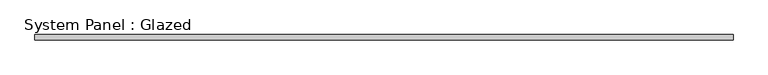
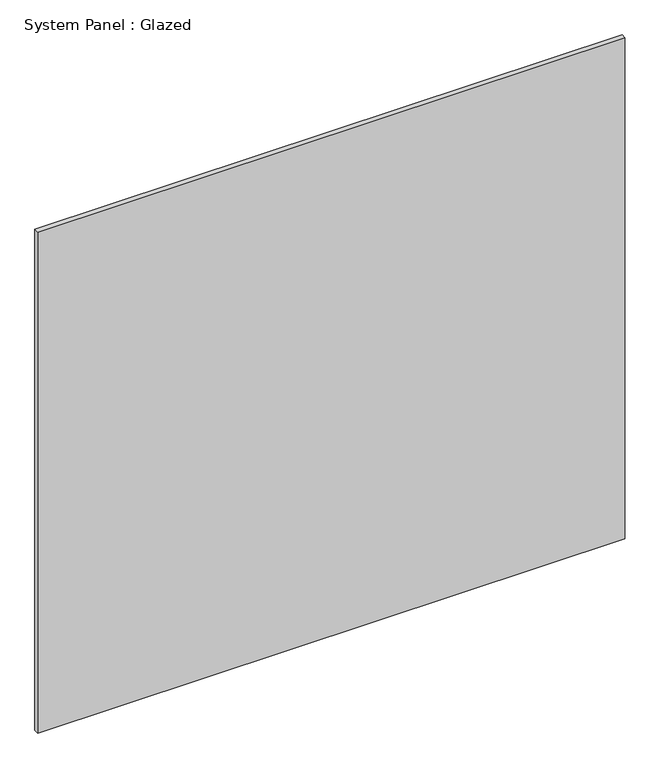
"""IFC4 building model written with IfcOpenShell, lengths in millimetres: plate geometry, System Panel : Glazed."""

from ifc_helpers import new_model, si_unit, origin, origin_with_axes, place, context, project, spatial, polyline, outline, extrude, source, transform, mapped, element, save


def system_panel_glazed_c65d631f(model_context):
    return source(origin(), model_context, "Body", "SweptSolid", [
        extrude(outline(polyline([(1636.7125, -44.45), (-1636.7125, -44.45), (-1636.7125, -19.05), (1636.7125, -19.05), (1636.7125, -44.45)])), origin_with_axes(), (0.0, 0.0, 1.0), 2952.75),
    ])


if __name__ == "__main__":
    model = new_model("IFC4")
    model_context = context("Model", 3, world=origin())
    ifc_project = project(units=[si_unit("LENGTHUNIT", "METRE", prefix="MILLI")], contexts=[model_context])
    site = spatial("IfcSite", under=ifc_project)
    building = spatial("IfcBuilding", under=site)
    placement = place(None, origin())
    system_panel_glazed_shape = system_panel_glazed_c65d631f(model_context)
    element("IfcPlate", 1, ObjectType="System Panel : Glazed", at=placement, inside=building, context=model_context, shape_type="MappedRepresentation", body=[
        mapped(system_panel_glazed_shape, transform((0.0, 0.0, 0.0), x_axis=(1.0, 0.0, 0.0), y_axis=(0.0, 1.0, 0.0), z_axis=(0.0, 0.0, 1.0))),
    ])
    save(model, "model.ifc")
